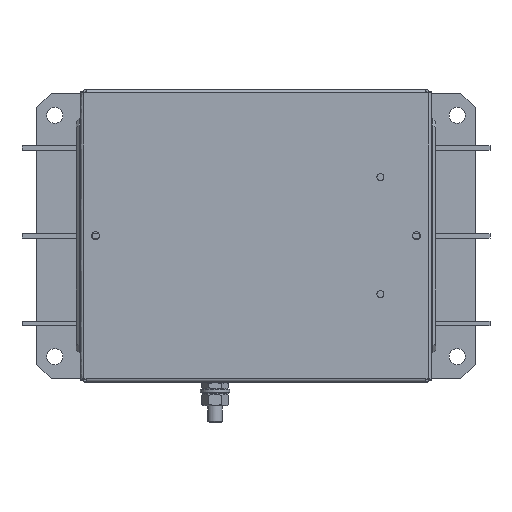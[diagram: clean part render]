
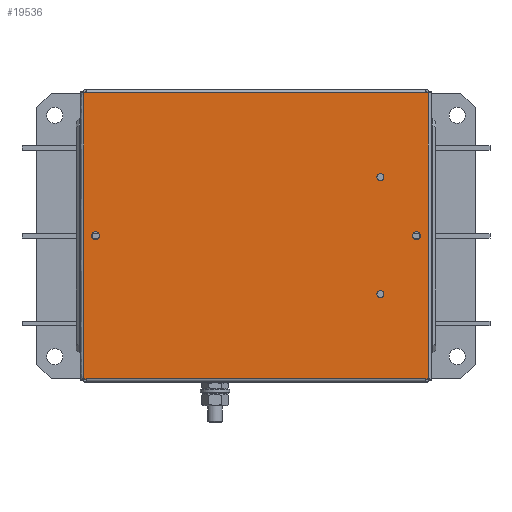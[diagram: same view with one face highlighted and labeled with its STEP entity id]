
A CAD part, top view. The second image highlights one B-rep face of the part: STEP entity #19536.
In plain terms, the highlighted planar face has unit normal (0, 0, 1).
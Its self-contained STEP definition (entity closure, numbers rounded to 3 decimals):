
#15583=CARTESIAN_POINT('',(87.4,-40.,86.));
#15584=VERTEX_POINT('',#15583);
#15585=CARTESIAN_POINT('',(85.0,-40.,86.0));
#15586=DIRECTION('',(0.0,0.0,1.0));
#15587=DIRECTION('',(1.0,0.0,0.0));
#15588=AXIS2_PLACEMENT_3D('',#15585,#15586,#15587);
#15589=CIRCLE('',#15588,2.4);
#15590=EDGE_CURVE('',#15584,#15584,#15589,.T.);
#16124=CARTESIAN_POINT('',(-117.7,-97.7,86.));
#16125=VERTEX_POINT('',#16124);
#16150=CARTESIAN_POINT('',(-116.19,-97.7,86.));
#16151=VERTEX_POINT('',#16150);
#16158=CARTESIAN_POINT('',(-117.7,-97.7,86.));
#16159=DIRECTION('',(1.0,0.0,0.0));
#16160=VECTOR('',#16159,1.51);
#16161=LINE('',#16158,#16160);
#16162=EDGE_CURVE('',#16125,#16151,#16161,.T.);
#16866=CARTESIAN_POINT('',(117.7,-97.7,86.));
#16867=VERTEX_POINT('',#16866);
#16875=CARTESIAN_POINT('',(116.19,-97.7,86.));
#16876=VERTEX_POINT('',#16875);
#16877=CARTESIAN_POINT('',(117.7,-97.7,86.));
#16878=DIRECTION('',(-1.0,0.0,0.0));
#16879=VECTOR('',#16878,1.51);
#16880=LINE('',#16877,#16879);
#16881=EDGE_CURVE('',#16867,#16876,#16880,.T.);
#17001=CARTESIAN_POINT('',(116.19,-97.7,86.));
#17002=DIRECTION('',(-1.0,0.0,0.0));
#17003=VECTOR('',#17002,232.38);
#17004=LINE('',#17001,#17003);
#17005=EDGE_CURVE('',#16876,#16151,#17004,.T.);
#17484=CARTESIAN_POINT('',(87.4,40.,86.));
#17485=VERTEX_POINT('',#17484);
#17486=CARTESIAN_POINT('',(85.0,40.,86.0));
#17487=DIRECTION('',(0.0,0.0,-1.0));
#17488=DIRECTION('',(1.0,0.0,0.0));
#17489=AXIS2_PLACEMENT_3D('',#17486,#17487,#17488);
#17490=CIRCLE('',#17489,2.4);
#17491=EDGE_CURVE('',#17485,#17485,#17490,.T.);
#17682=CARTESIAN_POINT('',(-112.5,0.0,86.));
#17683=VERTEX_POINT('',#17682);
#17684=CARTESIAN_POINT('',(-109.75,0.,86.0));
#17685=DIRECTION('',(0.0,0.0,-1.0));
#17686=DIRECTION('',(-1.0,0.0,0.0));
#17687=AXIS2_PLACEMENT_3D('',#17684,#17685,#17686);
#17688=CIRCLE('',#17687,2.75);
#17689=EDGE_CURVE('',#17683,#17683,#17688,.T.);
#18140=CARTESIAN_POINT('',(-117.7,97.7,86.));
#18141=VERTEX_POINT('',#18140);
#18149=CARTESIAN_POINT('',(-116.19,97.7,86.));
#18150=VERTEX_POINT('',#18149);
#18151=CARTESIAN_POINT('',(-117.7,97.7,86.));
#18152=DIRECTION('',(1.0,0.0,0.0));
#18153=VECTOR('',#18152,1.51);
#18154=LINE('',#18151,#18153);
#18155=EDGE_CURVE('',#18141,#18150,#18154,.T.);
#18289=CARTESIAN_POINT('',(-117.7,97.7,86.));
#18290=DIRECTION('',(0.0,-1.0,0.0));
#18291=VECTOR('',#18290,195.4);
#18292=LINE('',#18289,#18291);
#18293=EDGE_CURVE('',#18141,#16125,#18292,.T.);
#18660=CARTESIAN_POINT('',(107.,0.0,86.));
#18661=VERTEX_POINT('',#18660);
#18662=CARTESIAN_POINT('',(109.75,0.,86.0));
#18663=DIRECTION('',(0.0,0.0,-1.0));
#18664=DIRECTION('',(1.0,0.0,0.0));
#18665=AXIS2_PLACEMENT_3D('',#18662,#18663,#18664);
#18666=CIRCLE('',#18665,2.75);
#18667=EDGE_CURVE('',#18661,#18661,#18666,.T.);
#19139=CARTESIAN_POINT('',(117.7,97.7,86.));
#19140=VERTEX_POINT('',#19139);
#19156=CARTESIAN_POINT('',(116.19,97.7,86.));
#19157=VERTEX_POINT('',#19156);
#19164=CARTESIAN_POINT('',(117.7,97.7,86.));
#19165=DIRECTION('',(-1.0,0.0,0.0));
#19166=VECTOR('',#19165,1.51);
#19167=LINE('',#19164,#19166);
#19168=EDGE_CURVE('',#19140,#19157,#19167,.T.);
#19224=CARTESIAN_POINT('',(117.7,-97.7,86.));
#19225=DIRECTION('',(0.0,1.0,0.0));
#19226=VECTOR('',#19225,195.4);
#19227=LINE('',#19224,#19226);
#19228=EDGE_CURVE('',#16867,#19140,#19227,.T.);
#19260=CARTESIAN_POINT('',(116.19,97.7,86.));
#19261=DIRECTION('',(-1.0,0.0,0.0));
#19262=VECTOR('',#19261,232.38);
#19263=LINE('',#19260,#19262);
#19264=EDGE_CURVE('',#19157,#18150,#19263,.T.);
#19509=CARTESIAN_POINT('',(60.,50.,86.0));
#19510=DIRECTION('',(0.0,0.0,1.0));
#19511=DIRECTION('',(1.0,0.0,0.0));
#19512=AXIS2_PLACEMENT_3D('',#19509,#19510,#19511);
#19513=PLANE('',#19512);
#19514=ORIENTED_EDGE('',*,*,#18293,.T.);
#19515=ORIENTED_EDGE('',*,*,#16162,.T.);
#19516=ORIENTED_EDGE('',*,*,#17005,.F.);
#19517=ORIENTED_EDGE('',*,*,#16881,.F.);
#19518=ORIENTED_EDGE('',*,*,#19228,.T.);
#19519=ORIENTED_EDGE('',*,*,#19168,.T.);
#19520=ORIENTED_EDGE('',*,*,#19264,.T.);
#19521=ORIENTED_EDGE('',*,*,#18155,.F.);
#19522=EDGE_LOOP('',(#19514,#19515,#19516,#19517,#19518,#19519,#19520,#19521));
#19523=FACE_OUTER_BOUND('',#19522,.T.);
#19524=ORIENTED_EDGE('',*,*,#17689,.T.);
#19525=EDGE_LOOP('',(#19524));
#19526=FACE_BOUND('',#19525,.T.);
#19527=ORIENTED_EDGE('',*,*,#18667,.T.);
#19528=EDGE_LOOP('',(#19527));
#19529=FACE_BOUND('',#19528,.T.);
#19530=ORIENTED_EDGE('',*,*,#15590,.F.);
#19531=EDGE_LOOP('',(#19530));
#19532=FACE_BOUND('',#19531,.T.);
#19533=ORIENTED_EDGE('',*,*,#17491,.T.);
#19534=EDGE_LOOP('',(#19533));
#19535=FACE_BOUND('',#19534,.T.);
#19536=ADVANCED_FACE('',(#19523,#19526,#19529,#19532,#19535),#19513,.T.);
